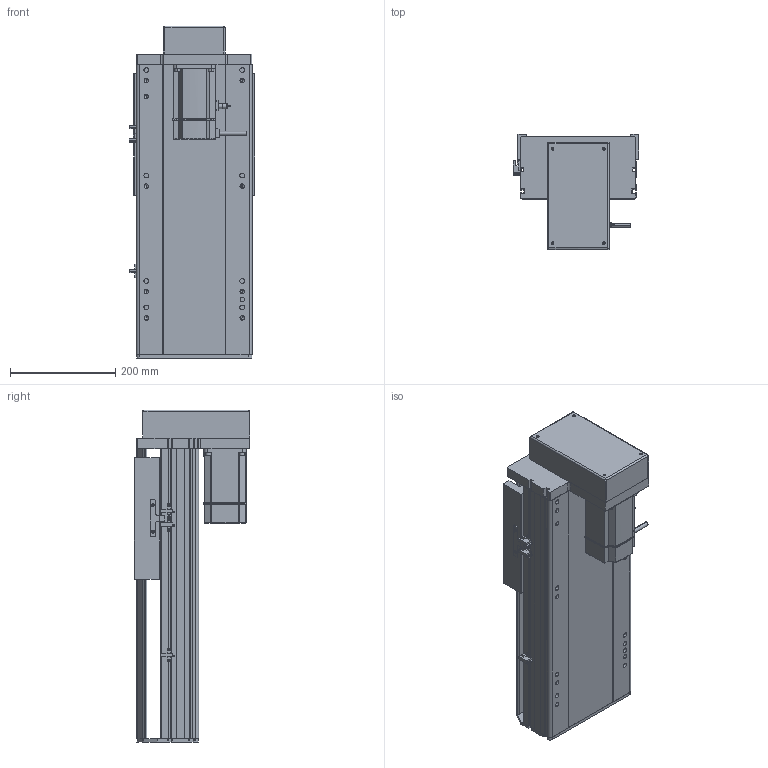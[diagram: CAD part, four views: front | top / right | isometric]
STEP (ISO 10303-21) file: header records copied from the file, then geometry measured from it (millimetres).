
FILE_DESCRIPTION (( 'STEP AP214' ), '1' );
FILE_NAME ('RTH22-XX-250-M-M75-C4.STEP', '2025-10-24T11:06:41', ( 'Microsoft' ), ( 'Microsoft' ), 'SwSTEP 2.0', 'SolidWorks 2018', '' );
FILE_SCHEMA (( 'AUTOMOTIVE_DESIGN' ));
Length unit declared in the file: millimetre
Products named in the file (10): N_750W萇儂^RTH22-XX-XX-M-M75-C4; N_RTH22-L-004-SFS25賑釱^RTH22-XX-XX-M-M75-C4; RTH22-XX-250-M-M75-C4; N_RTH22-M-018裔赽^RTH22-XX-XX-M-M75-C4; N_RTH22-M-007奻裔^RTH22-XX-XX-M-M75-C4; N_RTH22-GY-013外置感应片^RTH22-XX-XX-M-M75-C4; N_RTH22-M-008-P75萇儂啣^RTH22-XX-XX-M-M75-C4; N_RTH22-GY-001耜裔^RTH22-XX-XX-M-M75-C4; N_RTH22-L-011菁釱^RTH22-XX-XX-M-M75-C4; N_OMRON EE-SX672 传感器^RTH22-XX-XX-M-M75-C4
Assembly tree (11 placements, depth 2):
  RTH22-XX-250-M-M75-C4
    N_RTH22-L-011菁釱^RTH22-XX-XX-M-M75-C4
    N_RTH22-GY-001耜裔^RTH22-XX-XX-M-M75-C4
    N_750W萇儂^RTH22-XX-XX-M-M75-C4
    N_RTH22-M-008-P75萇儂啣^RTH22-XX-XX-M-M75-C4
    N_RTH22-M-007奻裔^RTH22-XX-XX-M-M75-C4
    N_RTH22-M-018裔赽^RTH22-XX-XX-M-M75-C4
    N_OMRON EE-SX672 传感器^RTH22-XX-XX-M-M75-C4  x3
    N_RTH22-GY-013外置感应片^RTH22-XX-XX-M-M75-C4
    N_RTH22-L-004-SFS25賑釱^RTH22-XX-XX-M-M75-C4
Bounding box: 238.5 x 218.5 x 629.7 mm (x, y, z)
Volume: 10073146.7 mm3; surface area: 1199703 mm2
Topology: 11 solids, 11 shells, 1569 faces, 4280 edges, 2765 vertices
Faces by surface type: plane 801, cylinder 439, bspline 279, cone 50
Entity records: 39025 total; most frequent: CARTESIAN_POINT 11920, ORIENTED_EDGE 5552, DIRECTION 5190, EDGE_CURVE 2776, VERTEX_POINT 1801, VECTOR 1752, LINE 1752, AXIS2_PLACEMENT_3D 1719
